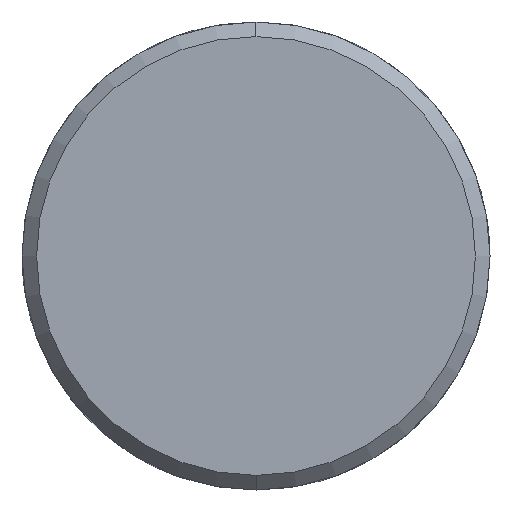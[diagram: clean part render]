
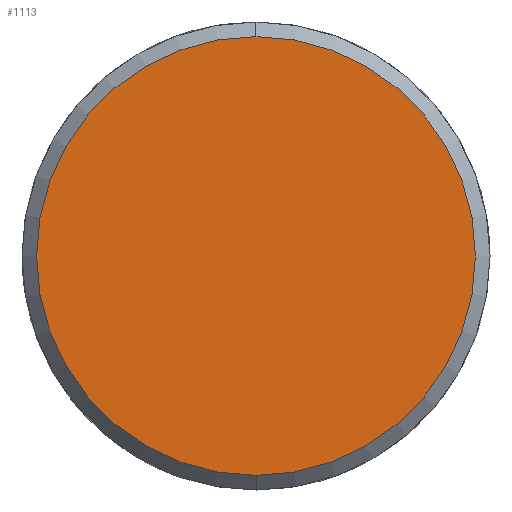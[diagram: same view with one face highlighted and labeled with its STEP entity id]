
A CAD part, left-side view. The second image highlights one B-rep face of the part: STEP entity #1113.
In plain terms, the highlighted planar face has unit normal (-1, 0, 0).
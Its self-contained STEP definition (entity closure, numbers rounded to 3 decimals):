
#1045=CARTESIAN_POINT('Vertex',(-6.,0.,-15.)) ;
#1048=CARTESIAN_POINT('Axis2P3D Location',(-6.,0.,0.)) ;
#1052=CARTESIAN_POINT('Vertex',(-6.,15.,0.)) ;
#1055=CARTESIAN_POINT('Axis2P3D Location',(-6.,0.,0.)) ;
#1059=CARTESIAN_POINT('Vertex',(-6.,0.,15.)) ;
#1081=CARTESIAN_POINT('Axis2P3D Location',(-6.,0.,0.)) ;
#1085=CARTESIAN_POINT('Vertex',(-6.,-15.,0.)) ;
#1088=CARTESIAN_POINT('Axis2P3D Location',(-6.,0.,0.)) ;
#1102=CARTESIAN_POINT('Axis2P3D Location',(-6.,0.,0.)) ;
#1049=DIRECTION('Axis2P3D Direction',(1.,0.,-0.)) ;
#1056=DIRECTION('Axis2P3D Direction',(1.,0.,-0.)) ;
#1082=DIRECTION('Axis2P3D Direction',(1.,0.,-0.)) ;
#1089=DIRECTION('Axis2P3D Direction',(1.,0.,-0.)) ;
#1103=DIRECTION('Axis2P3D Direction',(1.,0.,-0.)) ;
#1104=DIRECTION('Axis2P3D XDirection',(-0.,0.,-1.)) ;
#1050=AXIS2_PLACEMENT_3D('Circle Axis2P3D',#1048,#1049,$) ;
#1057=AXIS2_PLACEMENT_3D('Circle Axis2P3D',#1055,#1056,$) ;
#1083=AXIS2_PLACEMENT_3D('Circle Axis2P3D',#1081,#1082,$) ;
#1090=AXIS2_PLACEMENT_3D('Circle Axis2P3D',#1088,#1089,$) ;
#1105=AXIS2_PLACEMENT_3D('Plane Axis2P3D',#1102,#1103,#1104) ;
#1108=ORIENTED_EDGE('',*,*,#1054,.F.) ;
#1109=ORIENTED_EDGE('',*,*,#1092,.F.) ;
#1110=ORIENTED_EDGE('',*,*,#1087,.F.) ;
#1111=ORIENTED_EDGE('',*,*,#1061,.F.) ;
#1113=ADVANCED_FACE('351-20X76X120',(#1112),#1106,.F.) ;
#1051=CIRCLE('generated circle',#1050,15.) ;
#1058=CIRCLE('generated circle',#1057,15.) ;
#1084=CIRCLE('generated circle',#1083,15.) ;
#1091=CIRCLE('generated circle',#1090,15.) ;
#1054=EDGE_CURVE('',#1046,#1053,#1051,.T.) ;
#1061=EDGE_CURVE('',#1053,#1060,#1058,.T.) ;
#1087=EDGE_CURVE('',#1060,#1086,#1084,.T.) ;
#1092=EDGE_CURVE('',#1086,#1046,#1091,.T.) ;
#1107=EDGE_LOOP('',(#1108,#1109,#1110,#1111)) ;
#1112=FACE_OUTER_BOUND('',#1107,.T.) ;
#1106=PLANE('Plane',#1105) ;
#1046=VERTEX_POINT('',#1045) ;
#1053=VERTEX_POINT('',#1052) ;
#1060=VERTEX_POINT('',#1059) ;
#1086=VERTEX_POINT('',#1085) ;
